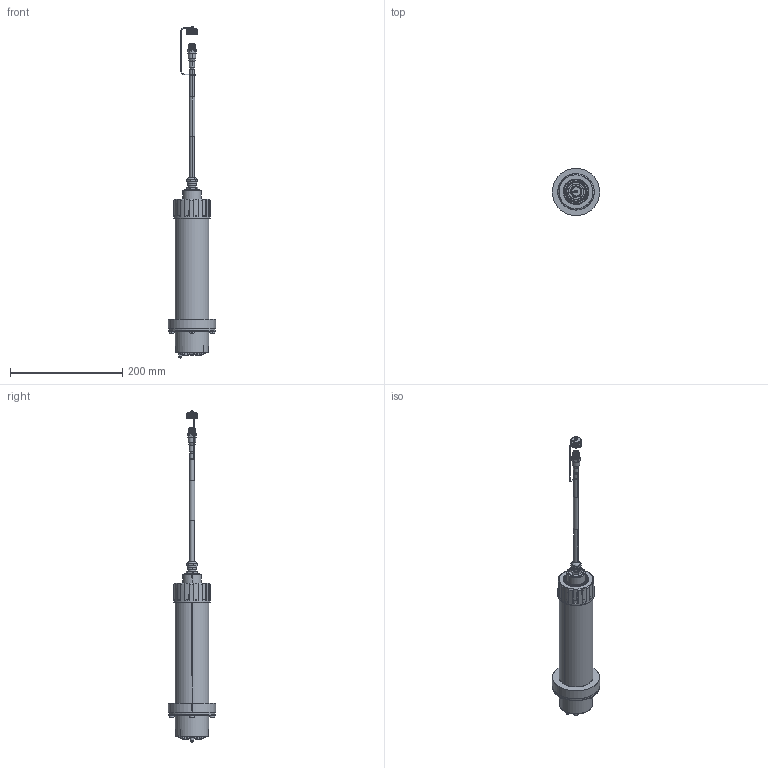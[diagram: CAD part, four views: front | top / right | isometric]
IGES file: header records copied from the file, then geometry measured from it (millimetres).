
Start section: SolidWorks IGES file using analytic representation for surfaces
Global section: file name: G:\EGK\USER\Sabine Krause\Public Group\meine_PDF\LXV440_TD_20000__002.IGS; native system: SolidWorks 2015; preprocessor: SolidWorks 2015; author: skrause; date: 160217.081444; units: millimetre
Bounding box: 84.5 x 84.5 x 592.1 mm (x, y, z)
Surface area: 127212.9 mm2 (no closed solid volume)
Topology: 0 solids, 0 shells, 1717 faces, 20251 edges, 20154 vertices
Faces by surface type: bspline 1206, revolution 511
